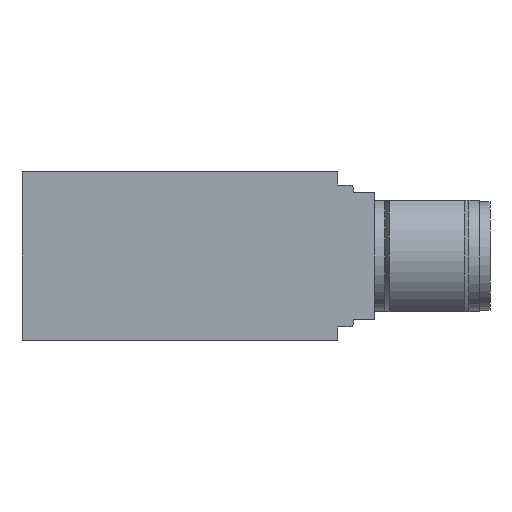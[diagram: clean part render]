
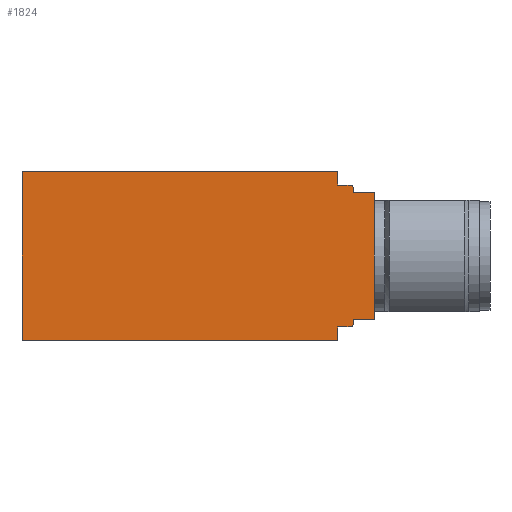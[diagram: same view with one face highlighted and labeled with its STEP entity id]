
A CAD part, front view. The second image highlights one B-rep face of the part: STEP entity #1824.
In plain terms, the highlighted planar face has unit normal (0, -1, 0) as drawn and (0, 0, -1) by its records, which use the part's own axes.
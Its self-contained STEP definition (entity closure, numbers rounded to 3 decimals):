
#53=LINE('',#2784,#171);
#61=LINE('',#2799,#179);
#93=LINE('',#2902,#211);
#109=LINE('',#2947,#227);
#125=LINE('',#2980,#243);
#126=LINE('',#2983,#244);
#127=LINE('',#2987,#245);
#128=LINE('',#2989,#246);
#129=LINE('',#2991,#247);
#130=LINE('',#2993,#248);
#131=LINE('',#2995,#249);
#132=LINE('',#2998,#250);
#171=VECTOR('',#2204,1.25);
#179=VECTOR('',#2212,1.25);
#211=VECTOR('',#2316,30.);
#227=VECTOR('',#2360,16.);
#243=VECTOR('',#2398,30.);
#244=VECTOR('',#2401,1.2);
#245=VECTOR('',#2404,0.45);
#246=VECTOR('',#2405,2.);
#247=VECTOR('',#2406,12.);
#248=VECTOR('',#2407,2.);
#249=VECTOR('',#2408,0.45);
#250=VECTOR('',#2411,1.2);
#327=PLANE('',#1992);
#450=FACE_OUTER_BOUND('',#583,.T.);
#583=EDGE_LOOP('',(#1433,#1434,#1435,#1436,#1437,#1438,#1439,#1440,#1441,
#1442,#1443,#1444,#1445,#1446));
#717=CIRCLE('',#1993,0.3);
#718=CIRCLE('',#1994,0.3);
#800=VERTEX_POINT('',#2776);
#803=VERTEX_POINT('',#2781);
#804=VERTEX_POINT('',#2783);
#811=VERTEX_POINT('',#2797);
#846=VERTEX_POINT('',#2900);
#861=VERTEX_POINT('',#2945);
#868=VERTEX_POINT('',#2982);
#869=VERTEX_POINT('',#2984);
#870=VERTEX_POINT('',#2986);
#871=VERTEX_POINT('',#2988);
#872=VERTEX_POINT('',#2990);
#873=VERTEX_POINT('',#2992);
#874=VERTEX_POINT('',#2994);
#875=VERTEX_POINT('',#2996);
#978=EDGE_CURVE('',#804,#803,#53,.T.);
#986=EDGE_CURVE('',#800,#811,#61,.T.);
#1035=EDGE_CURVE('',#811,#846,#93,.T.);
#1057=EDGE_CURVE('',#861,#846,#109,.T.);
#1074=EDGE_CURVE('',#861,#804,#125,.T.);
#1075=EDGE_CURVE('',#803,#868,#126,.T.);
#1076=EDGE_CURVE('',#868,#869,#717,.T.);
#1077=EDGE_CURVE('',#869,#870,#127,.T.);
#1078=EDGE_CURVE('',#870,#871,#128,.T.);
#1079=EDGE_CURVE('',#872,#871,#129,.T.);
#1080=EDGE_CURVE('',#873,#872,#130,.T.);
#1081=EDGE_CURVE('',#874,#873,#131,.T.);
#1082=EDGE_CURVE('',#875,#874,#718,.T.);
#1083=EDGE_CURVE('',#800,#875,#132,.T.);
#1433=ORIENTED_EDGE('',*,*,#1075,.T.);
#1434=ORIENTED_EDGE('',*,*,#1076,.T.);
#1435=ORIENTED_EDGE('',*,*,#1077,.T.);
#1436=ORIENTED_EDGE('',*,*,#1078,.T.);
#1437=ORIENTED_EDGE('',*,*,#1079,.F.);
#1438=ORIENTED_EDGE('',*,*,#1080,.F.);
#1439=ORIENTED_EDGE('',*,*,#1081,.F.);
#1440=ORIENTED_EDGE('',*,*,#1082,.F.);
#1441=ORIENTED_EDGE('',*,*,#1083,.F.);
#1442=ORIENTED_EDGE('',*,*,#986,.T.);
#1443=ORIENTED_EDGE('',*,*,#1035,.T.);
#1444=ORIENTED_EDGE('',*,*,#1057,.F.);
#1445=ORIENTED_EDGE('',*,*,#1074,.T.);
#1446=ORIENTED_EDGE('',*,*,#978,.T.);
#1824=ADVANCED_FACE('',(#450),#327,.F.);
#1992=AXIS2_PLACEMENT_3D('',#2981,#2399,#2400);
#1993=AXIS2_PLACEMENT_3D('',#2985,#2402,#2403);
#1994=AXIS2_PLACEMENT_3D('',#2997,#2409,#2410);
#2204=DIRECTION('',(0.,-1.,0.));
#2212=DIRECTION('',(0.,-1.,0.));
#2316=DIRECTION('',(-1.,0.,0.));
#2360=DIRECTION('',(0.,-1.,0.));
#2398=DIRECTION('',(1.,0.,0.));
#2399=DIRECTION('center_axis',(0.,0.,1.));
#2400=DIRECTION('ref_axis',(1.,0.,0.));
#2401=DIRECTION('',(1.,0.,0.));
#2402=DIRECTION('center_axis',(0.,0.,-1.));
#2403=DIRECTION('ref_axis',(0.707,0.707,0.));
#2404=DIRECTION('',(0.,-1.,0.));
#2405=DIRECTION('',(1.,0.,0.));
#2406=DIRECTION('',(0.,1.,0.));
#2407=DIRECTION('',(1.,0.,0.));
#2408=DIRECTION('',(0.,1.,0.));
#2409=DIRECTION('center_axis',(0.,0.,1.));
#2410=DIRECTION('ref_axis',(0.707,-0.707,0.));
#2411=DIRECTION('',(1.,0.,0.));
#2776=CARTESIAN_POINT('',(15.,-14.75,-43.));
#2781=CARTESIAN_POINT('',(15.,-1.25,-43.));
#2783=CARTESIAN_POINT('',(15.,0.,-43.));
#2784=CARTESIAN_POINT('',(15.,0.,-43.));
#2797=CARTESIAN_POINT('',(15.,-16.,-43.));
#2799=CARTESIAN_POINT('',(15.,-14.75,-43.));
#2900=CARTESIAN_POINT('',(-15.,-16.,-43.));
#2902=CARTESIAN_POINT('',(15.,-16.,-43.));
#2945=CARTESIAN_POINT('',(-15.,0.,-43.));
#2947=CARTESIAN_POINT('',(-15.,0.,-43.));
#2980=CARTESIAN_POINT('',(-15.,0.,-43.));
#2981=CARTESIAN_POINT('Origin',(1.75,-16.,-43.));
#2982=CARTESIAN_POINT('',(16.2,-1.25,-43.));
#2983=CARTESIAN_POINT('',(15.,-1.25,-43.));
#2984=CARTESIAN_POINT('',(16.5,-1.55,-43.));
#2985=CARTESIAN_POINT('Origin',(16.2,-1.55,-43.));
#2986=CARTESIAN_POINT('',(16.5,-2.,-43.));
#2987=CARTESIAN_POINT('',(16.5,-1.55,-43.));
#2988=CARTESIAN_POINT('',(18.5,-2.,-43.));
#2989=CARTESIAN_POINT('',(16.5,-2.,-43.));
#2990=CARTESIAN_POINT('',(18.5,-14.,-43.));
#2991=CARTESIAN_POINT('',(18.5,-14.,-43.));
#2992=CARTESIAN_POINT('',(16.5,-14.,-43.));
#2993=CARTESIAN_POINT('',(16.5,-14.,-43.));
#2994=CARTESIAN_POINT('',(16.5,-14.45,-43.));
#2995=CARTESIAN_POINT('',(16.5,-14.45,-43.));
#2996=CARTESIAN_POINT('',(16.2,-14.75,-43.));
#2997=CARTESIAN_POINT('Origin',(16.2,-14.45,-43.));
#2998=CARTESIAN_POINT('',(15.,-14.75,-43.));
